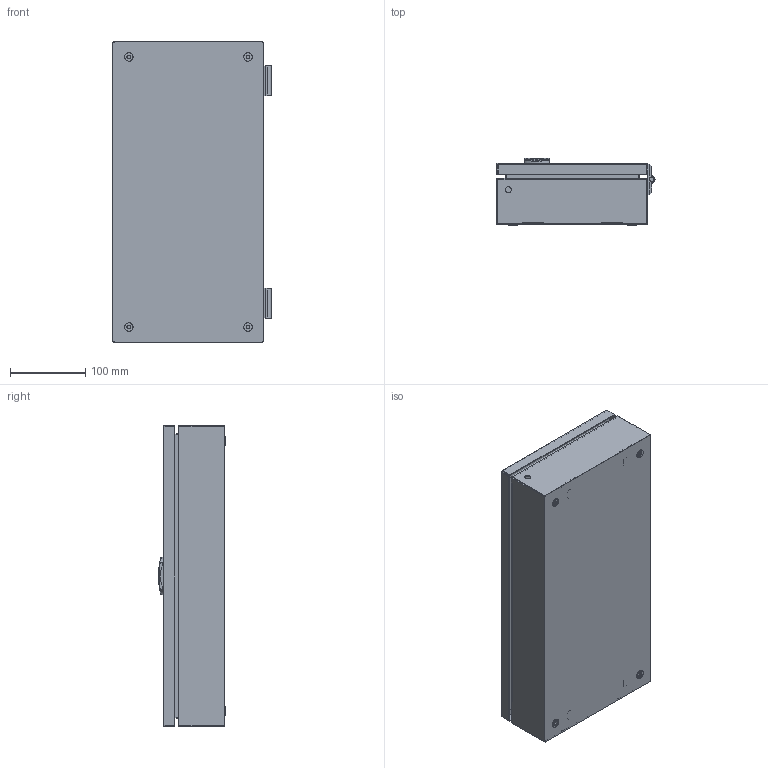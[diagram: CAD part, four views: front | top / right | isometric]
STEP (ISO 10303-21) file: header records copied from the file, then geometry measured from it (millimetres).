
FILE_DESCRIPTION(('Open CASCADE Model'),'2;1');
FILE_NAME('Open CASCADE Shape Model','2025-11-18T10:54:15',('Author'),( 'Open CASCADE'),'Open CASCADE STEP processor 7.8','Open CASCADE 7.8' ,'Unknown');
FILE_SCHEMA(('AUTOMOTIVE_DESIGN { 1 0 10303 214 1 1 1 1 }'));
Length unit declared in the file: millimetre
Products named in the file (21): Compound1; Compound2; Compound3; Solid1; Solid2; Solid3; Compound4; Compound5; Solid4; Solid5; Solid6; Compound6; Solid7; Solid8; Solid9; Solid10; Solid11; Solid12; Solid13; Solid14; Solid15
Assembly tree (35 placements, depth 5):
  Compound1
    Compound2
      Compound3
        Solid1
        Solid2  x2
        Solid3
      Compound4
        Compound5
          Solid4
          Solid3
        Solid5
        Solid6
        Compound6
          Solid7
          Solid8
          Solid9
          Solid10
      Solid11  x2
      Solid12  x4
      Solid13  x4
      Solid14  x4
    Solid15  x4
Bounding box: 209.4 x 89.04 x 400 mm (x, y, z)
Volume: 496997 mm3; surface area: 668343.5 mm2
Topology: 36 solids, 36 shells, 1144 faces, 2841 edges, 1800 vertices
Faces by surface type: plane 549, cylinder 226, bspline 205, cone 94, torus 53, sphere 17
Full cylindrical faces by diameter (mm): 3.2 x4, 4 x18, 4.2 x8, 5 x13, 5.15 x4, 5.5 x4, 5.8 x2, 5.857 x8, 6 x5, 7.5 x2, 8 x9, 8.4 x4, 9.6 x1, 11.5 x4, 12 x1, 12.7 x1, 15.6 x1
Entity records: 38160 total; most frequent: CARTESIAN_POINT 18699, ORIENTED_EDGE 4324, DIRECTION 3349, EDGE_CURVE 2162, VERTEX_POINT 1389, AXIS2_PLACEMENT_3D 1200, FACE_BOUND 953, EDGE_LOOP 953
